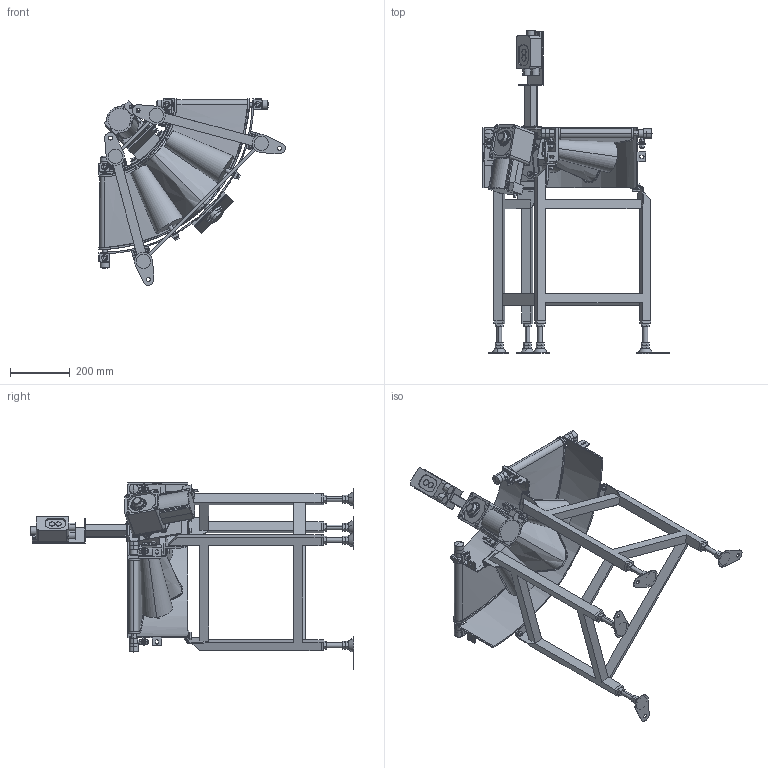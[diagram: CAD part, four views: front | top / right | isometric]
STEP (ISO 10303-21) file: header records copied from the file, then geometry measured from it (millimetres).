
FILE_DESCRIPTION( (''), '2;1');
FILE_NAME ('FNC-309-250-90°-L-K-100.stp','2025-02-17T15:36:41',(''),(''),'spGate 20.6.2 (****-****-****-****)','','');
FILE_SCHEMA (('AUTOMOTIVE_DESIGN'));
Length unit declared in the file: millimetre
Products named in the file (49): NewModel; TEMP_X_T-prt0; TEMP_X_T-prt1; TEMP_X_T-prt2; TEMP_X_T-prt3; TEMP_X_T-prt4; TEMP_X_T-prt5; TEMP_X_T-prt6; TEMP_X_T-prt7; TEMP_X_T-prt8; TEMP_X_T-prt9; TEMP_X_T-prt10; TEMP_X_T-prt11; TEMP_X_T-prt12; TEMP_X_T-prt13; TEMP_X_T-prt14; TEMP_X_T-prt15; TEMP_X_T-prt16; TEMP_X_T-prt17; TEMP_X_T-prt18; TEMP_X_T-prt19; TEMP_X_T-prt20; TEMP_X_T-prt21; TEMP_X_T-prt22; TEMP_X_T-prt23; TEMP_X_T-prt24; TEMP_X_T-prt25; TEMP_X_T-prt26; TEMP_X_T-prt27; TEMP_X_T-prt28; TEMP_X_T-prt29; TEMP_X_T-prt30; TEMP_X_T-prt31; TEMP_X_T-prt32; TEMP_X_T-prt33; TEMP_X_T-prt34; TEMP_X_T-prt35; TEMP_X_T-prt36; TEMP_X_T-prt37; TEMP_X_T-prt38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
Assembly tree (48 placements, depth 2):
  NewModel
    TEMP_X_T-prt0
    TEMP_X_T-prt1
    TEMP_X_T-prt2
    TEMP_X_T-prt3
    TEMP_X_T-prt4
    TEMP_X_T-prt5
    TEMP_X_T-prt6
    TEMP_X_T-prt7
    TEMP_X_T-prt8
    TEMP_X_T-prt9
    TEMP_X_T-prt10
    TEMP_X_T-prt11
    TEMP_X_T-prt12
    TEMP_X_T-prt13
    TEMP_X_T-prt14
    TEMP_X_T-prt15
    TEMP_X_T-prt16
    TEMP_X_T-prt17
    TEMP_X_T-prt18
    TEMP_X_T-prt19
    TEMP_X_T-prt20
    TEMP_X_T-prt21
    TEMP_X_T-prt22
    TEMP_X_T-prt23
    TEMP_X_T-prt24
    TEMP_X_T-prt25
    TEMP_X_T-prt26
    TEMP_X_T-prt27
    TEMP_X_T-prt28
    TEMP_X_T-prt29
    TEMP_X_T-prt30
    TEMP_X_T-prt31
    TEMP_X_T-prt32
    TEMP_X_T-prt33
    TEMP_X_T-prt34
    TEMP_X_T-prt35
    TEMP_X_T-prt36
    TEMP_X_T-prt37
    TEMP_X_T-prt38
    TEMP_X_T-prt39
    TEMP_X_T-prt40
    TEMP_X_T-prt41
    TEMP_X_T-prt42
    TEMP_X_T-prt43
    TEMP_X_T-prt44
    TEMP_X_T-prt45
    TEMP_X_T-prt46
    TEMP_X_T-prt47
Bounding box: 623.77 x 1081.5 x 623.77 mm (x, y, z)
Volume: 19049828.8 mm3; surface area: 2123817.5 mm2
Topology: 48 solids, 48 shells, 1908 faces, 4630 edges, 3025 vertices
Faces by surface type: plane 1230, cylinder 519, bspline 159
Entity records: 102425 total; most frequent: CARTESIAN_POINT 19371, ORIENTED_EDGE 9244, DIRECTION 8883, COLOUR_RGB 6578, PRESENTATION_STYLE_ASSIGNMENT 6578, STYLED_ITEM 6578, EDGE_CURVE 4622, DRAUGHTING_PRE_DEFINED_CURVE_FONT 4622
